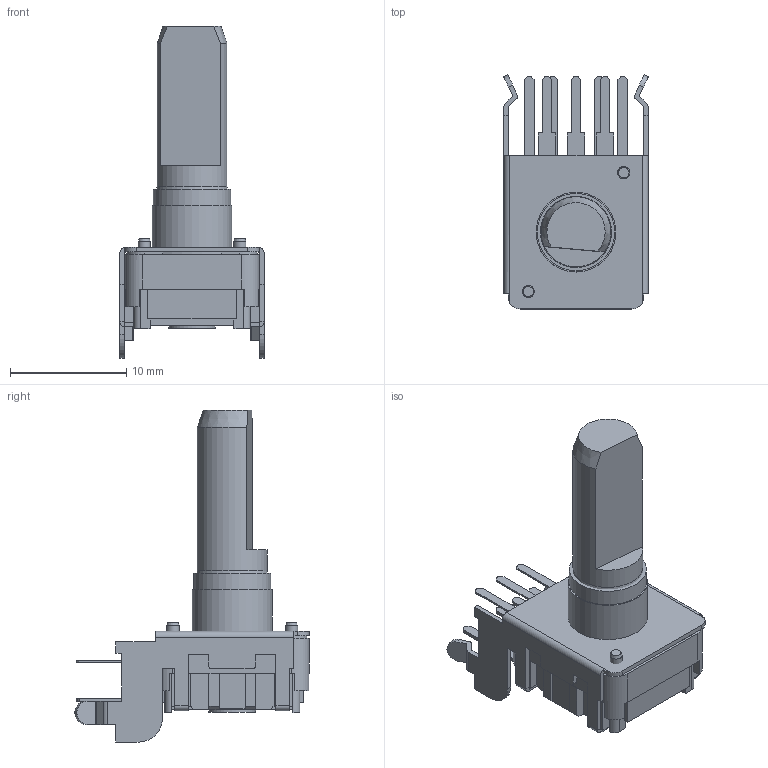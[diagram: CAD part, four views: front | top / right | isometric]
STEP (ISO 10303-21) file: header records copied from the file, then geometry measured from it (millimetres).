
FILE_DESCRIPTION(/* description */ (''),/* implementation_level */ '2;1');
FILE_NAME(/* name */ '\\Forward-ks-ad\開發專區\\X2\9AD896C45EE08A2D8A088AB2\X0\\設計機種開發作業\\X2\91CF75226A5F7A2E5C086848\X0\\ENCODER\機種開發\Encoder\DC12K\3D\CTS\DC12S24212FM01.stp',/* time_stamp */ '2020-06-18T16:28:39+08:00',/* author */ ('jia'),/* organization */ (''),/* preprocessor_version */ 'ST-DEVELOPER v15.2',/* originating_system */ 'Autodesk Inventor 2014',/* authorisation */ '');
FILE_SCHEMA (('AUTOMOTIVE_DESIGN { 1 0 10303 214 3 1 1 }'));
Length unit declared in the file: millimetre
Products named in the file (1): 組合1_Shrinkwrap_1
Bounding box: 12.4 x 20.11 x 28.5 mm (x, y, z)
Surface area: 2058.1 mm2 (no closed solid volume)
Topology: 0 solids, 23 shells, 297 faces, 855 edges, 565 vertices
Faces by surface type: plane 241, cylinder 52, cone 4
Full cylindrical faces by diameter (mm): 1.031 x1, 1.067 x1, 4 x1, 6 x1, 6.625 x1, 6.849 x1
Entity records: 9516 total; most frequent: CARTESIAN_POINT 1721, DIRECTION 1582, ORIENTED_EDGE 1504, EDGE_CURVE 845, LINE 696, VECTOR 696, VERTEX_POINT 564, AXIS2_PLACEMENT_3D 443
